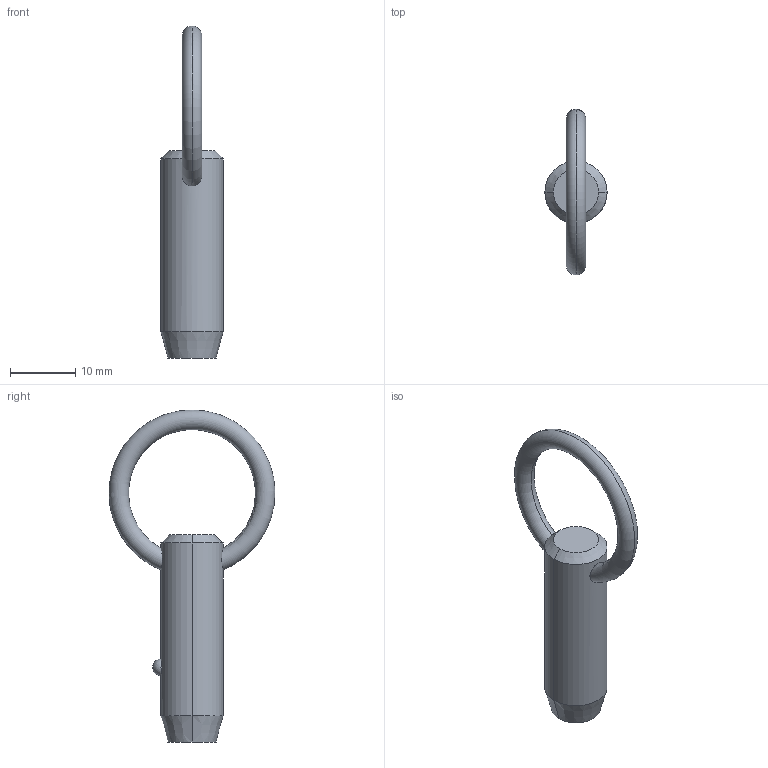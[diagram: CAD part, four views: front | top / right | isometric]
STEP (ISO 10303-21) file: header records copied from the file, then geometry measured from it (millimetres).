
FILE_DESCRIPTION (( 'STEP AP203' ), '1' );
FILE_NAME ('P1250.037-050.step', '2019-07-29T19:57:56', ( '' ), ( '' ), 'SwSTEP 2.0', 'SolidWorks 2017', '' );
FILE_SCHEMA (( 'CONFIG_CONTROL_DESIGN' ));
Length unit declared in the file: millimetre
Products named in the file (1): P1250.037-050
Bounding box: 9.52 x 25.39 x 50.8 mm (x, y, z)
Volume: 2611.2 mm3; surface area: 1591.8 mm2
Topology: 1 solids, 1 shells, 12 faces, 28 edges, 17 vertices
Faces by surface type: cone 4, torus 2, sphere 2, cylinder 2, plane 2
Entity records: 523 total; most frequent: CARTESIAN_POINT 190, DIRECTION 56, ORIENTED_EDGE 48, AXIS2_PLACEMENT_3D 25, EDGE_CURVE 24, VERTEX_POINT 15, EDGE_LOOP 15, ADVANCED_FACE 12
